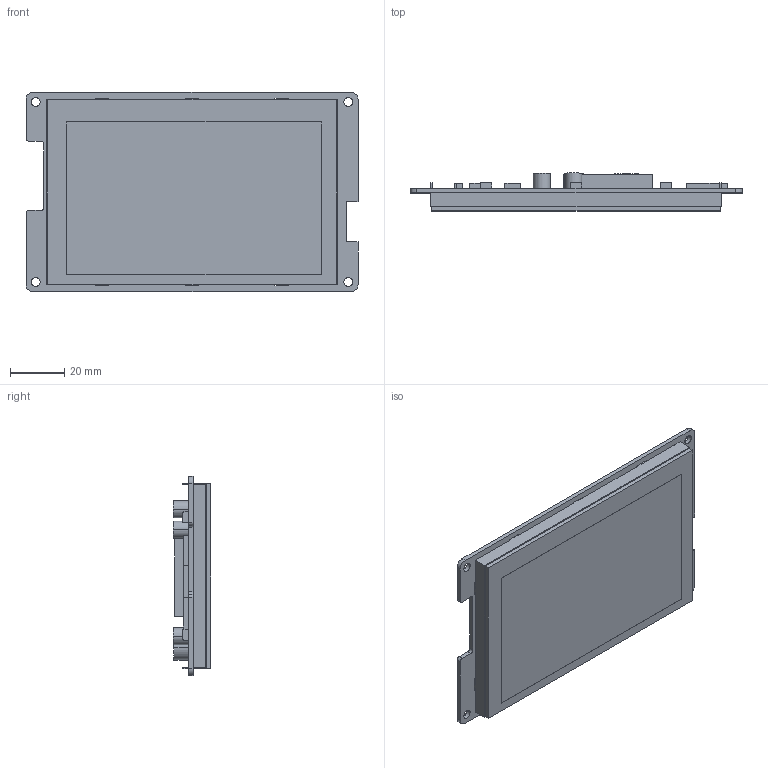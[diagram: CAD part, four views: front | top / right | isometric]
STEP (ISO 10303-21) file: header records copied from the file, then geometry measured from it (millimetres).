
FILE_DESCRIPTION((''),'2;1');
FILE_NAME('DMG80480C043-01W_ASM','2023-02-15T',('Administrator'),(''),'PRO/ENGINEER BY PARAMETRIC TECHNOLOGY CORPORATION, 2014320','PRO/ENGINEER BY PARAMETRIC TECHNOLOGY CORPORATION, 2014320','');
FILE_SCHEMA(('CONFIG_CONTROL_DESIGN','SHAPE_APPEARANCE_LAYERS_GROUPS'));
Length unit declared in the file: millimetre
Products named in the file (5): TK043000; 043IPS; PCB; RTP; DMG80480C043-01W_ASM
Assembly tree (4 placements, depth 2):
  DMG80480C043-01W_ASM
    TK043000
    043IPS
    PCB
    RTP
Bounding box: 121.92 x 13.85 x 73.15 mm (x, y, z)
Volume: 51795.8 mm3; surface area: 57294.9 mm2
Topology: 4 solids, 4 shells, 264 faces, 729 edges, 486 vertices
Faces by surface type: plane 205, cylinder 59
Entity records: 9776 total; most frequent: CARTESIAN_POINT 1488, ORIENTED_EDGE 1458, DIRECTION 1393, EDGE_CURVE 729, VECTOR 611, LINE 611, VERTEX_POINT 486, AXIS2_PLACEMENT_3D 391
